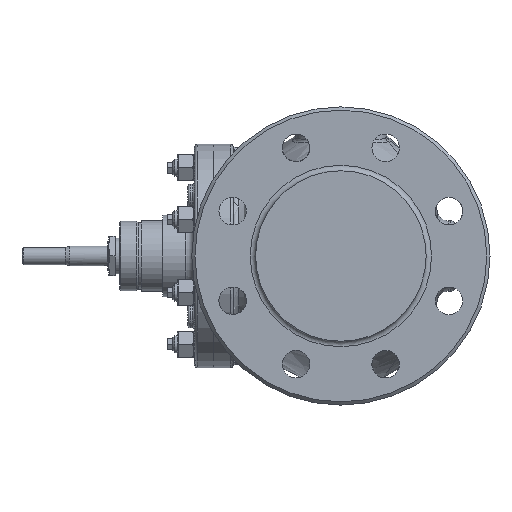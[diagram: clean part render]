
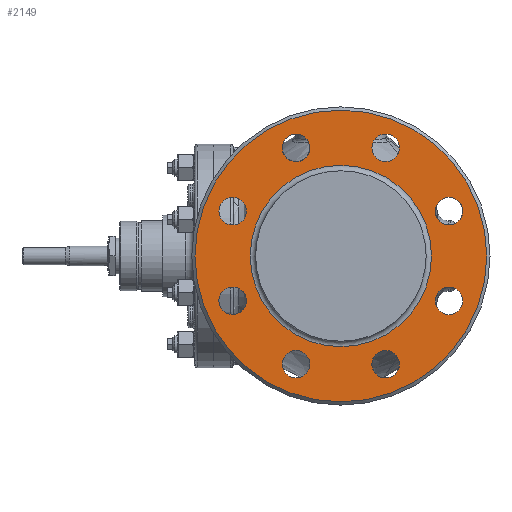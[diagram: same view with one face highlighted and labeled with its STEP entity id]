
A CAD part, left-side view. The second image highlights one B-rep face of the part: STEP entity #2149.
In plain terms, the highlighted planar face has unit normal (-1, 0, 0).
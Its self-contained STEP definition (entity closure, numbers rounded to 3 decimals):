
#312=FACE_BOUND('',#3444,.T.);
#313=FACE_BOUND('',#3445,.T.);
#314=FACE_BOUND('',#3446,.T.);
#315=FACE_BOUND('',#3447,.T.);
#316=FACE_BOUND('',#3448,.T.);
#317=FACE_BOUND('',#3449,.T.);
#318=FACE_BOUND('',#3450,.T.);
#319=FACE_BOUND('',#3451,.T.);
#320=FACE_BOUND('',#3452,.T.);
#321=FACE_BOUND('',#3453,.T.);
#796=PLANE('',#9619);
#1613=CIRCLE('',#9609,134.5);
#1614=CIRCLE('',#9610,12.7);
#1615=CIRCLE('',#9611,12.7);
#1616=CIRCLE('',#9612,12.7);
#1617=CIRCLE('',#9613,12.7);
#1618=CIRCLE('',#9614,12.7);
#1619=CIRCLE('',#9615,12.7);
#1620=CIRCLE('',#9616,12.7);
#1621=CIRCLE('',#9617,12.7);
#1622=CIRCLE('',#9618,83.6);
#2149=ADVANCED_FACE('',(#312,#313,#314,#315,#316,#317,#318,#319,#320,#321),
#796,.T.);
#3444=EDGE_LOOP('',(#4540));
#3445=EDGE_LOOP('',(#4541));
#3446=EDGE_LOOP('',(#4542));
#3447=EDGE_LOOP('',(#4543));
#3448=EDGE_LOOP('',(#4544));
#3449=EDGE_LOOP('',(#4545));
#3450=EDGE_LOOP('',(#4546));
#3451=EDGE_LOOP('',(#4547));
#3452=EDGE_LOOP('',(#4548));
#3453=EDGE_LOOP('',(#4549));
#4540=ORIENTED_EDGE('',*,*,#7934,.T.);
#4541=ORIENTED_EDGE('',*,*,#7935,.F.);
#4542=ORIENTED_EDGE('',*,*,#7936,.F.);
#4543=ORIENTED_EDGE('',*,*,#7937,.F.);
#4544=ORIENTED_EDGE('',*,*,#7938,.F.);
#4545=ORIENTED_EDGE('',*,*,#7939,.F.);
#4546=ORIENTED_EDGE('',*,*,#7940,.F.);
#4547=ORIENTED_EDGE('',*,*,#7941,.F.);
#4548=ORIENTED_EDGE('',*,*,#7942,.F.);
#4549=ORIENTED_EDGE('',*,*,#7943,.T.);
#7072=VERTEX_POINT('',#15160);
#7073=VERTEX_POINT('',#15162);
#7074=VERTEX_POINT('',#15164);
#7075=VERTEX_POINT('',#15166);
#7076=VERTEX_POINT('',#15168);
#7077=VERTEX_POINT('',#15170);
#7078=VERTEX_POINT('',#15172);
#7079=VERTEX_POINT('',#15174);
#7080=VERTEX_POINT('',#15176);
#7081=VERTEX_POINT('',#15178);
#7934=EDGE_CURVE('',#7072,#7072,#1613,.T.);
#7935=EDGE_CURVE('',#7073,#7073,#1614,.T.);
#7936=EDGE_CURVE('',#7074,#7074,#1615,.T.);
#7937=EDGE_CURVE('',#7075,#7075,#1616,.T.);
#7938=EDGE_CURVE('',#7076,#7076,#1617,.T.);
#7939=EDGE_CURVE('',#7077,#7077,#1618,.T.);
#7940=EDGE_CURVE('',#7078,#7078,#1619,.T.);
#7941=EDGE_CURVE('',#7079,#7079,#1620,.T.);
#7942=EDGE_CURVE('',#7080,#7080,#1621,.T.);
#7943=EDGE_CURVE('',#7081,#7081,#1622,.T.);
#9609=AXIS2_PLACEMENT_3D('',#15159,#10853,#10854);
#9610=AXIS2_PLACEMENT_3D('',#15161,#10855,#10856);
#9611=AXIS2_PLACEMENT_3D('',#15163,#10857,#10858);
#9612=AXIS2_PLACEMENT_3D('',#15165,#10859,#10860);
#9613=AXIS2_PLACEMENT_3D('',#15167,#10861,#10862);
#9614=AXIS2_PLACEMENT_3D('',#15169,#10863,#10864);
#9615=AXIS2_PLACEMENT_3D('',#15171,#10865,#10866);
#9616=AXIS2_PLACEMENT_3D('',#15173,#10867,#10868);
#9617=AXIS2_PLACEMENT_3D('',#15175,#10869,#10870);
#9618=AXIS2_PLACEMENT_3D('',#15177,#10871,#10872);
#9619=AXIS2_PLACEMENT_3D('',#15179,#10873,#10874);
#10853=DIRECTION('',(-1.,0.,0.));
#10854=DIRECTION('',(0.,0.,1.));
#10855=DIRECTION('',(-1.,0.,0.));
#10856=DIRECTION('',(0.,0.,1.));
#10857=DIRECTION('',(-1.,0.,0.));
#10858=DIRECTION('',(0.,0.,1.));
#10859=DIRECTION('',(-1.,0.,0.));
#10860=DIRECTION('',(0.,0.,1.));
#10861=DIRECTION('',(-1.,0.,0.));
#10862=DIRECTION('',(0.,0.,1.));
#10863=DIRECTION('',(-1.,0.,0.));
#10864=DIRECTION('',(0.,0.,1.));
#10865=DIRECTION('',(-1.,0.,0.));
#10866=DIRECTION('',(0.,0.,1.));
#10867=DIRECTION('',(-1.,0.,0.));
#10868=DIRECTION('',(0.,0.,1.));
#10869=DIRECTION('',(-1.,0.,0.));
#10870=DIRECTION('',(0.,0.,1.));
#10871=DIRECTION('',(1.,0.,0.));
#10872=DIRECTION('',(0.,0.,1.));
#10873=DIRECTION('',(-1.,0.,0.));
#10874=DIRECTION('',(0.,0.,1.));
#15159=CARTESIAN_POINT('',(-190.,0.,0.));
#15160=CARTESIAN_POINT('',(-190.,0.,134.5));
#15161=CARTESIAN_POINT('',(-190.,41.311,99.733));
#15162=CARTESIAN_POINT('',(-190.,41.311,112.433));
#15163=CARTESIAN_POINT('',(-190.,-41.311,99.733));
#15164=CARTESIAN_POINT('',(-190.,-41.311,112.433));
#15165=CARTESIAN_POINT('',(-190.,-99.733,41.311));
#15166=CARTESIAN_POINT('',(-190.,-99.733,54.011));
#15167=CARTESIAN_POINT('',(-190.,-99.733,-41.311));
#15168=CARTESIAN_POINT('',(-190.,-99.733,-28.611));
#15169=CARTESIAN_POINT('',(-190.,-41.311,-99.733));
#15170=CARTESIAN_POINT('',(-190.,-41.311,-87.033));
#15171=CARTESIAN_POINT('',(-190.,41.311,-99.733));
#15172=CARTESIAN_POINT('',(-190.,41.311,-87.033));
#15173=CARTESIAN_POINT('',(-190.,99.733,-41.311));
#15174=CARTESIAN_POINT('',(-190.,99.733,-28.611));
#15175=CARTESIAN_POINT('',(-190.,99.733,41.311));
#15176=CARTESIAN_POINT('',(-190.,99.733,54.011));
#15177=CARTESIAN_POINT('',(-190.,0.,0.));
#15178=CARTESIAN_POINT('',(-190.,0.,83.6));
#15179=CARTESIAN_POINT('',(-190.,137.5,0.));
